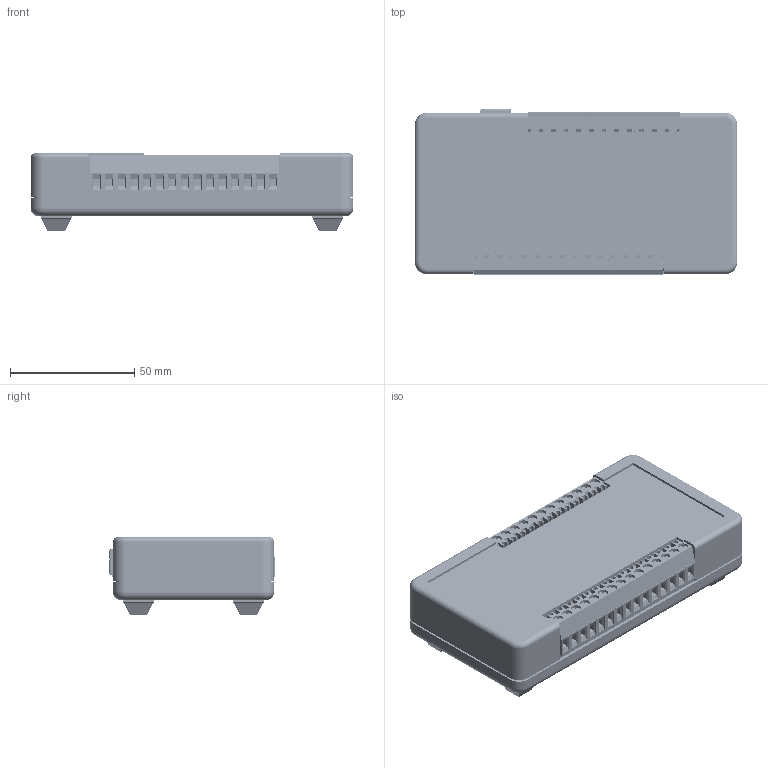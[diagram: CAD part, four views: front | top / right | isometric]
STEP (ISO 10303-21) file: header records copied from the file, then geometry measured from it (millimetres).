
FILE_DESCRIPTION (( 'STEP AP214' ), '1' );
FILE_NAME ('ADU Terminal Block, Desk Top.STEP', '2018-09-24T19:34:38', ( '' ), ( '' ), 'SwSTEP 2.0', 'SolidWorks 2014', '' );
FILE_SCHEMA (( 'AUTOMOTIVE_DESIGN' ));
Length unit declared in the file: millimetre
Products named in the file (10): SJ5018; 91420A127_METRIC FLAT HEAD PHILLIPS MACHINE SCREW_91420A127; 94510A240_BRASS SCREW-TO-EXPAND INSERTS FOR PLASTICS_94510A240; ADU Top; USB; Wieland_25.163.0353.0_CAD STEP data; 90380A106_PHILLIPS THREAD-FORMING SCREW FOR PLASTIC_90380A106; PCB; ADU Base; ADU Terminal Block, Desk Top
Assembly tree (29 placements, depth 2):
  ADU Terminal Block, Desk Top
    ADU Base
    PCB
    90380A106_PHILLIPS THREAD-FORMING SCREW FOR PLASTIC_90380A106  x4
    Wieland_25.163.0353.0_CAD STEP data  x9
    USB
    ADU Top
    94510A240_BRASS SCREW-TO-EXPAND INSERTS FOR PLASTICS_94510A240  x4
    91420A127_METRIC FLAT HEAD PHILLIPS MACHINE SCREW_91420A127  x4
    SJ5018  x4
Bounding box: 130 x 66.8 x 31.3 mm (x, y, z)
Volume: 83710.3 mm3; surface area: 81668.6 mm2
Topology: 28 solids, 29 shells, 7320 faces, 17585 edges, 10405 vertices
Faces by surface type: bspline 3170, plane 1937, cylinder 1883, cone 274, torus 32, sphere 24
Entity records: 124180 total; most frequent: CARTESIAN_POINT 74915, ORIENTED_EDGE 11768, DIRECTION 7135, EDGE_CURVE 5888, VERTEX_POINT 3544, LINE 2523, VECTOR 2523, EDGE_LOOP 2476
